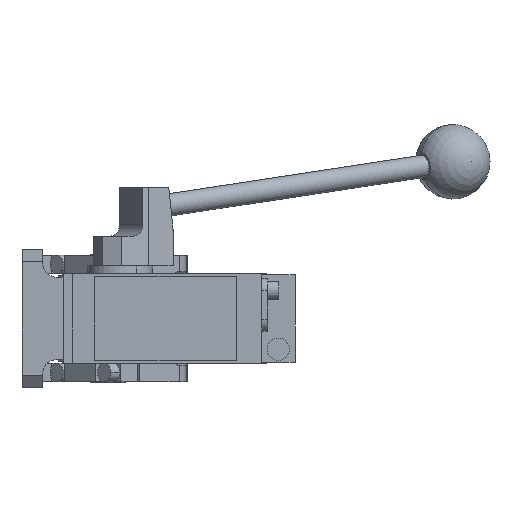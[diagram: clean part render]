
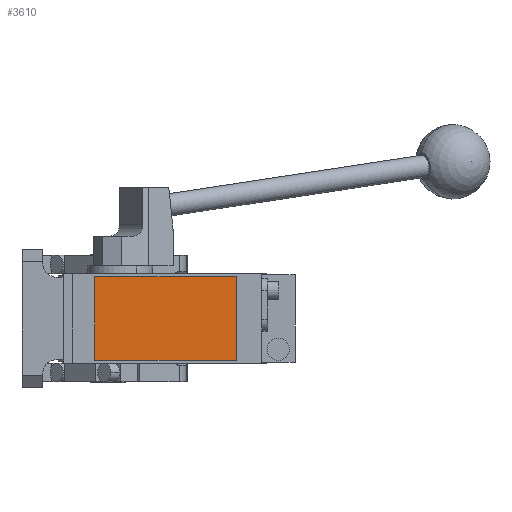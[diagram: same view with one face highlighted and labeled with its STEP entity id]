
A CAD part, front view. The second image highlights one B-rep face of the part: STEP entity #3610.
In plain terms, the highlighted planar face has unit normal (0, -1, 0).
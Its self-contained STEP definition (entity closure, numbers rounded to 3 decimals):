
#638 = CARTESIAN_POINT ( 'NONE',  ( -7., -280.5, 22.5 ) ) ;
#1065 = VECTOR ( 'NONE', #8952, 1000. ) ;
#1397 = DIRECTION ( 'NONE',  ( 0., 0., -1. ) ) ;
#1588 = LINE ( 'NONE', #5232, #16068 ) ;
#2116 = EDGE_CURVE ( 'NONE', #5431, #7865, #1588, .T. ) ;
#2887 = VECTOR ( 'NONE', #4353, 1000. ) ;
#3055 = LINE ( 'NONE', #10531, #2887 ) ;
#3610 = ADVANCED_FACE ( 'NONE', ( #13237 ), #14636, .T. ) ;
#3695 = CARTESIAN_POINT ( 'NONE',  ( -7., -280.5, 22.5 ) ) ;
#3996 = CARTESIAN_POINT ( 'NONE',  ( 69., -280.5, 22.5 ) ) ;
#4353 = DIRECTION ( 'NONE',  ( 1., 0., 0. ) ) ;
#5131 = EDGE_LOOP ( 'NONE', ( #15036, #10613, #13817, #11849 ) ) ;
#5232 = CARTESIAN_POINT ( 'NONE',  ( -7., -280.5, 22.5 ) ) ;
#5431 = VERTEX_POINT ( 'NONE', #9761 ) ;
#7768 = CARTESIAN_POINT ( 'NONE',  ( 69., -280.5, -22.5 ) ) ;
#7865 = VERTEX_POINT ( 'NONE', #638 ) ;
#8912 = VERTEX_POINT ( 'NONE', #9471 ) ;
#8952 = DIRECTION ( 'NONE',  ( 0., 0., 1. ) ) ;
#9172 = EDGE_CURVE ( 'NONE', #9311, #5431, #11421, .T. ) ;
#9300 = DIRECTION ( 'NONE',  ( 0., 0., -1. ) ) ;
#9311 = VERTEX_POINT ( 'NONE', #7768 ) ;
#9471 = CARTESIAN_POINT ( 'NONE',  ( -7., -280.5, -22.5 ) ) ;
#9761 = CARTESIAN_POINT ( 'NONE',  ( 69., -280.5, 22.5 ) ) ;
#9888 = EDGE_CURVE ( 'NONE', #8912, #9311, #3055, .T. ) ;
#10103 = EDGE_CURVE ( 'NONE', #7865, #8912, #15997, .T. ) ;
#10523 = AXIS2_PLACEMENT_3D ( 'NONE', #15836, #11764, #9300 ) ;
#10531 = CARTESIAN_POINT ( 'NONE',  ( -7., -280.5, -22.5 ) ) ;
#10613 = ORIENTED_EDGE ( 'NONE', *, *, #9888, .T. ) ;
#10940 = VECTOR ( 'NONE', #1397, 1000. ) ;
#11421 = LINE ( 'NONE', #3996, #1065 ) ;
#11764 = DIRECTION ( 'NONE',  ( 0., -1., 0. ) ) ;
#11849 = ORIENTED_EDGE ( 'NONE', *, *, #2116, .T. ) ;
#13237 = FACE_OUTER_BOUND ( 'NONE', #5131, .T. ) ;
#13816 = DIRECTION ( 'NONE',  ( -1., 0., 0. ) ) ;
#13817 = ORIENTED_EDGE ( 'NONE', *, *, #9172, .T. ) ;
#14636 = PLANE ( 'NONE',  #10523 ) ;
#15036 = ORIENTED_EDGE ( 'NONE', *, *, #10103, .T. ) ;
#15836 = CARTESIAN_POINT ( 'NONE',  ( 0., -280.5, 0. ) ) ;
#15997 = LINE ( 'NONE', #3695, #10940 ) ;
#16068 = VECTOR ( 'NONE', #13816, 1000. ) ;
